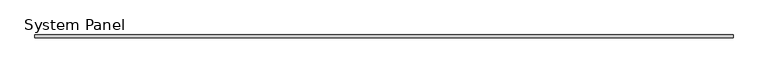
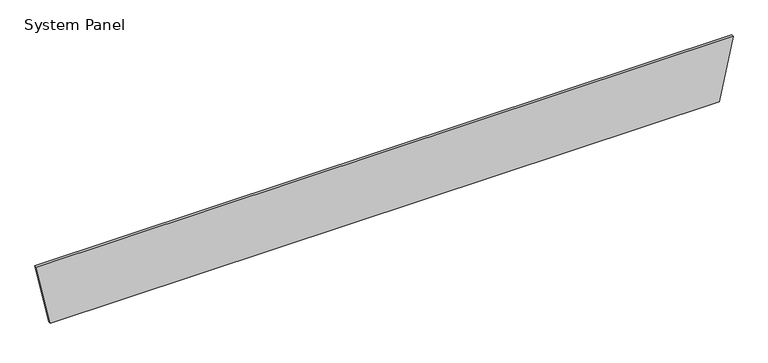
"""IFC4 building model written with IfcOpenShell, lengths in millimetres: plate geometry, System Panel : Equitilt_50mm_Plain_Surfmist."""

from ifc_helpers import new_model, si_unit, frame, origin, place, context, project, spatial, polyline, outline, extrude, source, transform, mapped, element, save


def system_panel_15232523(model_context):
    return source(origin(), model_context, "Body", "SweptSolid", [
        extrude(outline(polyline([(0.0, -6260.8716619), (0.0, 6260.8716619), (1200.0, 6521.7433237), (1200.0, -6521.7433237), (0.0, -6260.8716619)])), frame((0.0, -50.0, 0.0), z_axis=(0.0, 1.0, 0.0), x_axis=(0.0, 0.0, 1.0)), (0.0, 0.0, 1.0), 50.0),
    ])


if __name__ == "__main__":
    model = new_model("IFC4")
    model_context = context("Model", 3, world=origin())
    ifc_project = project(units=[si_unit("LENGTHUNIT", "METRE", prefix="MILLI")], contexts=[model_context])
    site = spatial("IfcSite", under=ifc_project)
    building = spatial("IfcBuilding", under=site)
    placement = place(None, origin())
    system_panel_shape = system_panel_15232523(model_context)
    element("IfcPlate", 1, ObjectType="System Panel : Equitilt_50mm_Plain_Surfmist", at=placement, inside=building, context=model_context, shape_type="MappedRepresentation", body=[
        mapped(system_panel_shape, transform((0.0, 0.0, 0.0), x_axis=(1.0, 0.0, 0.0), y_axis=(0.0, 1.0, 0.0), z_axis=(0.0, 0.0, 1.0))),
    ])
    save(model, "model.ifc")
